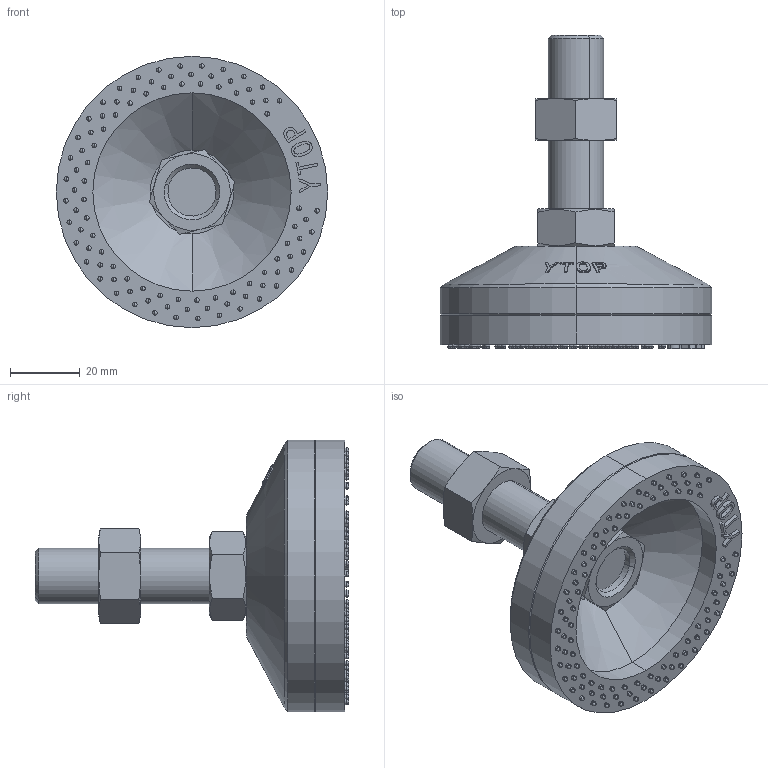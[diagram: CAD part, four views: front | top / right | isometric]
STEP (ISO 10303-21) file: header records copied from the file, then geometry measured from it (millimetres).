
FILE_DESCRIPTION (( 'STEP AP203' ), '1' );
FILE_NAME ('AH-80-1650-TPU.STEP', '2020-09-09T03:53:47', ( '' ), ( '' ), 'SwSTEP 2.0', 'SolidWorks 2016', '' );
FILE_SCHEMA (( 'CONFIG_CONTROL_DESIGN' ));
Length unit declared in the file: millimetre
Products named in the file (6): AH-80菁釱 ; AH-80-1650-TPU; AH-80蝶菜 ; 脚垫锁紧六角薄螺母M16; 傲郈蹟裝M16炵蹈_M16X50; 脚垫调节六角螺母M16
Assembly tree (5 placements, depth 2):
  AH-80-1650-TPU
    AH-80蝶菜 
    AH-80菁釱 
    脚垫锁紧六角薄螺母M16
    脚垫调节六角螺母M16
    傲郈蹟裝M16炵蹈_M16X50
Bounding box: 78 x 90.2 x 78 mm (x, y, z)
Volume: 96265.2 mm3; surface area: 34812.7 mm2
Topology: 5 solids, 5 shells, 579 faces, 1608 edges, 961 vertices
Faces by surface type: cylinder 208, sphere 190, cone 66, plane 65, bspline 50
Entity records: 20925 total; most frequent: CARTESIAN_POINT 7737, DIRECTION 2766, ORIENTED_EDGE 2456, EDGE_CURVE 1228, AXIS2_PLACEMENT_3D 1207, VERTEX_POINT 771, EDGE_LOOP 699, CIRCLE 670
